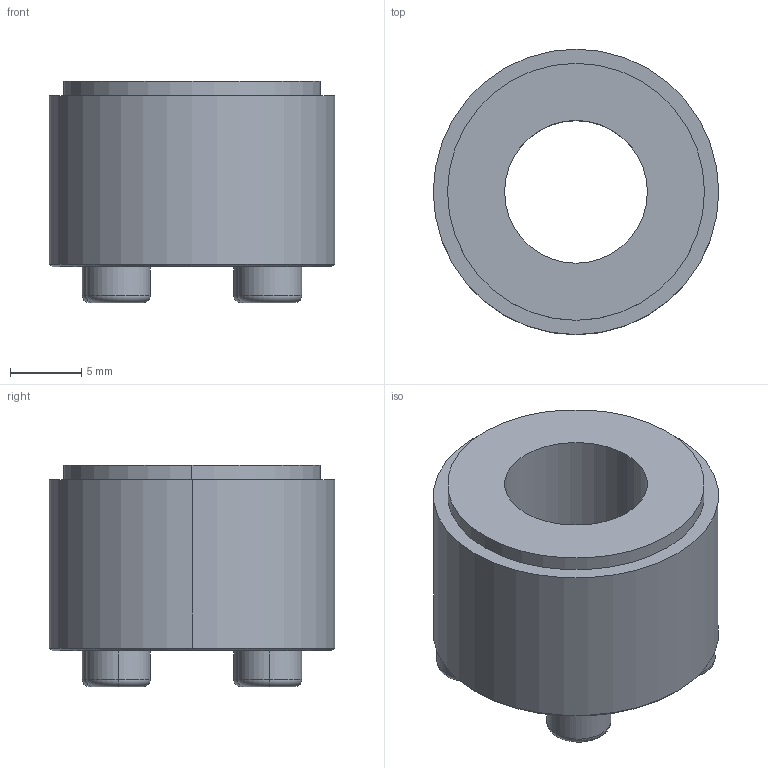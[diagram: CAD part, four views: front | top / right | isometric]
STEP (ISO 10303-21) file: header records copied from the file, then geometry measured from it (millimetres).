
FILE_DESCRIPTION (( 'STEP AP203' ), '1' );
FILE_NAME ('PL-B 10-20.STEP', '2021-10-22T07:44:41', ( '' ), ( '' ), 'SwSTEP 2.0', 'SolidWorks 2018', '' );
FILE_SCHEMA (( 'CONFIG_CONTROL_DESIGN' ));
Length unit declared in the file: millimetre
Products named in the file (1): PL-B 10-20
Bounding box: 20 x 20 x 15.5 mm (x, y, z)
Volume: 3142.4 mm3; surface area: 1838.4 mm2
Topology: 1 solids, 1 shells, 61 faces, 138 edges, 88 vertices
Faces by surface type: plane 35, cylinder 14, torus 8, cone 4
Entity records: 1785 total; most frequent: DIRECTION 310, CARTESIAN_POINT 288, ORIENTED_EDGE 276, EDGE_CURVE 138, AXIS2_PLACEMENT_3D 110, LINE 90, VECTOR 90, VERTEX_POINT 88
